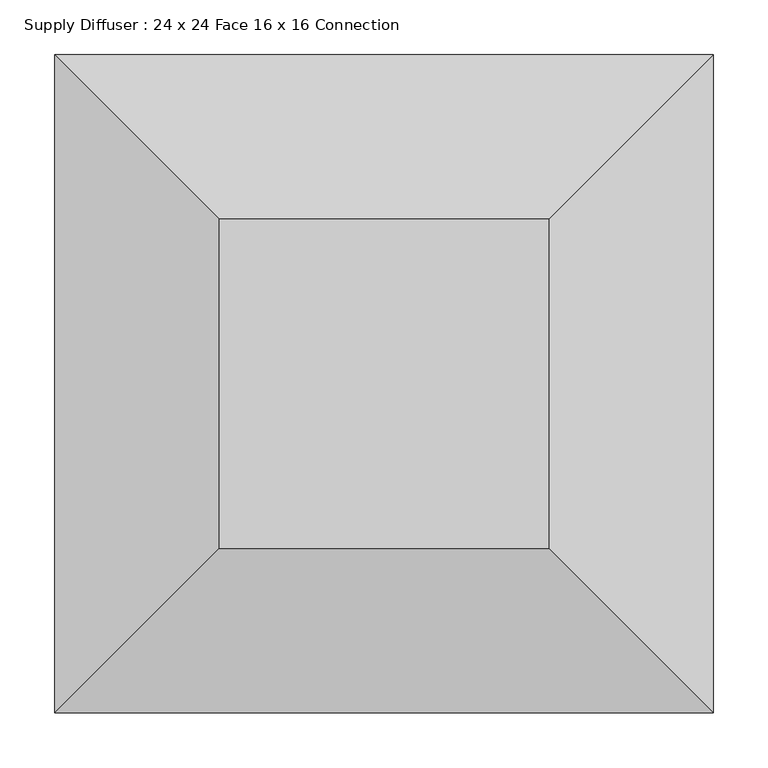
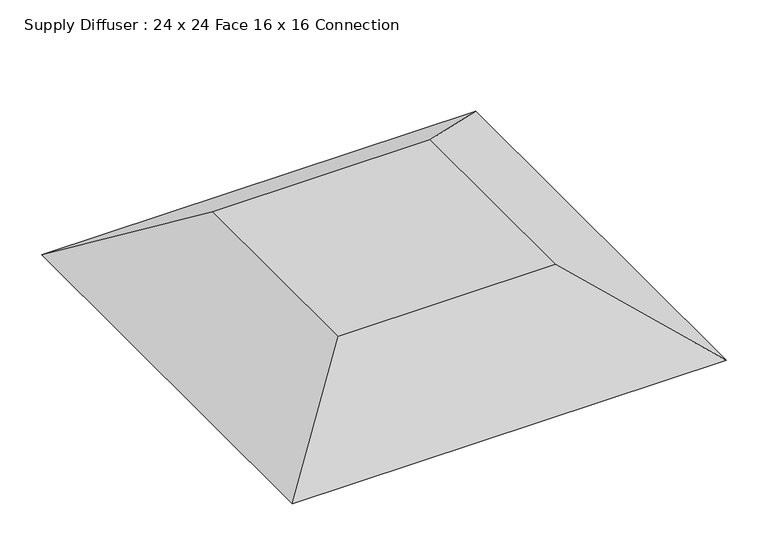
"""IFC4 building model written with IfcOpenShell, lengths in millimetres: air terminal geometry, Supply Diffuser : 24 x 24 Face 16 x 16 Connection."""

from ifc_helpers import new_model, si_unit, origin, place, context, project, spatial, faceted_brep, source, transform, mapped, element, save


def supply_diffuser_24_x_24_face_16_x_16_connection_3cd54949(model_context):
    return source(origin(), model_context, "Body", "Brep", [
        faceted_brep([(150.0, -150.0, 101.6), (150.0, 150.0, 101.6), (-150.0, 150.0, 101.6), (-150.0, -150.0, 101.6), (300.0, -300.0, 0.0), (-300.0, -300.0, 0.0), (-300.0, 300.0, 0.0), (300.0, 300.0, 0.0)], [[[0, 1, 2, 3]], [[4, 5, 6, 7]], [[4, 0, 3, 5]], [[5, 3, 2, 6]], [[6, 2, 1, 7]], [[7, 1, 0, 4]]]),
    ])


if __name__ == "__main__":
    model = new_model("IFC4")
    model_context = context("Model", 3, world=origin())
    ifc_project = project(units=[si_unit("LENGTHUNIT", "METRE", prefix="MILLI")], contexts=[model_context])
    site = spatial("IfcSite", under=ifc_project)
    building = spatial("IfcBuilding", under=site)
    placement = place(None, origin())
    supply_diffuser_24_x_24_face_16_x_16_connection_shape = supply_diffuser_24_x_24_face_16_x_16_connection_3cd54949(model_context)
    element("IfcAirTerminal", 1, ObjectType="Supply Diffuser : 24 x 24 Face 16 x 16 Connection", at=placement, inside=building, context=model_context, shape_type="MappedRepresentation", body=[
        mapped(supply_diffuser_24_x_24_face_16_x_16_connection_shape, transform((0.0, 0.0, 0.0), x_axis=(1.0, 0.0, 0.0), y_axis=(0.0, 1.0, 0.0), z_axis=(0.0, 0.0, 1.0))),
    ])
    save(model, "model.ifc")
